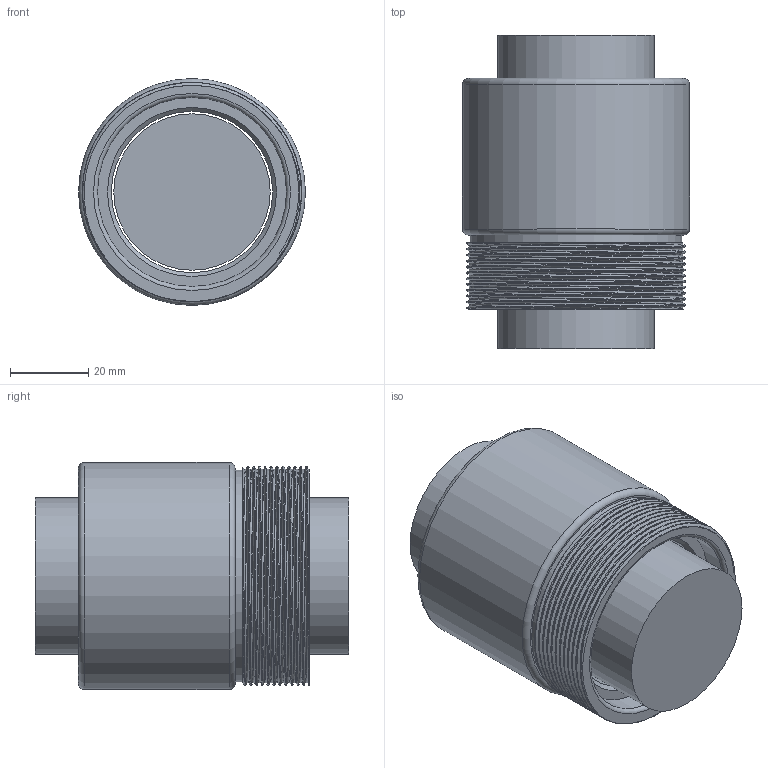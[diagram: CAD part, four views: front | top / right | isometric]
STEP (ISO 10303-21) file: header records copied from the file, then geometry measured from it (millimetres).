
FILE_DESCRIPTION(/* description */ (''),/* implementation_level */ '2;1');
FILE_NAME(/* name */ '4005.prt.step',/* time_stamp */ '2008-12-05T09:44:07+08:00',/* author */ (''),/* organization */ (''),/* preprocessor_version */ 'ST-DEVELOPER v11',/* originating_system */ 'SIEMENS UGS NX 6.0',/* authorisation */ '');
FILE_SCHEMA (('AUTOMOTIVE_DESIGN { 1 0 10303 214 1 1 1 1 }'));
Length unit declared in the file: millimetre
Products named in the file (1): 4005
Bounding box: 58 x 80 x 58 mm (x, y, z)
Volume: 166339.8 mm3; surface area: 35061.4 mm2
Topology: 2 solids, 2 shells, 24 faces, 46 edges, 30 vertices
Faces by surface type: cylinder 8, plane 8, torus 4, bspline 2, cone 2
Full cylindrical faces by diameter (mm): 39.95 x1, 41.2 x1, 48.3 x2, 54 x1, 58 x1
Entity records: 2612 total; most frequent: CARTESIAN_POINT 2161, DIRECTION 90, ORIENTED_EDGE 60, AXIS2_PLACEMENT_3D 45, EDGE_LOOP 42, FACE_BOUND 36, EDGE_CURVE 30, VERTEX_POINT 26
